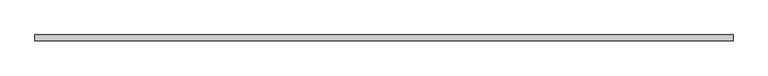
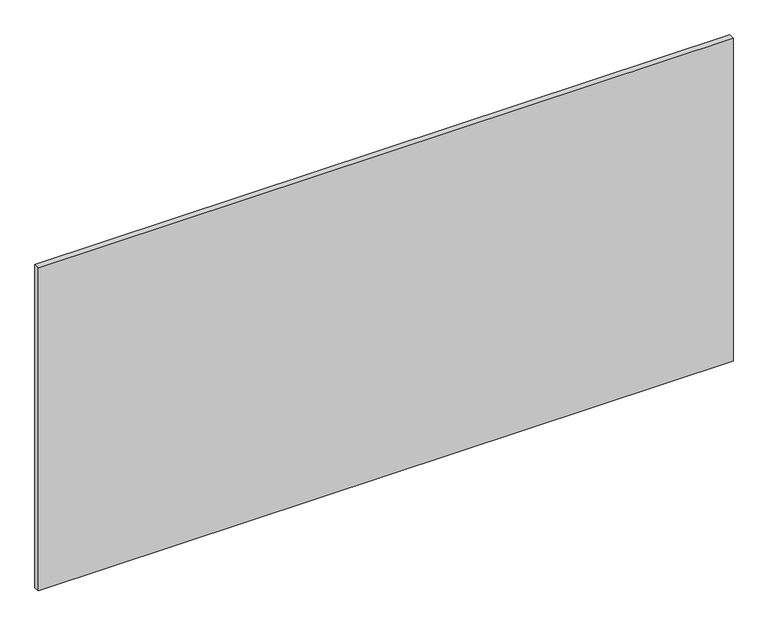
"""IFC4 building model written with IfcOpenShell, lengths in millimetres: plate geometry, Системная панель : С остеклением."""

from ifc_helpers import new_model, si_unit, origin, origin_with_axes, place, context, project, spatial, polyline, outline, extrude, source, transform, mapped, element, save


def plate_0a9b55ed(model_context):
    return source(origin(), model_context, "Body", "SweptSolid", [
        extrude(outline(polyline([(1475.0, -49.5), (-1475.0, -49.5), (-1475.0, -24.5), (1475.0, -24.5), (1475.0, -49.5)])), origin_with_axes(), (0.0, 0.0, 1.0), 1450.0),
    ])


if __name__ == "__main__":
    model = new_model("IFC4")
    model_context = context("Model", 3, world=origin())
    ifc_project = project(units=[si_unit("LENGTHUNIT", "METRE", prefix="MILLI")], contexts=[model_context])
    site = spatial("IfcSite", under=ifc_project)
    building = spatial("IfcBuilding", under=site)
    placement = place(None, origin())
    plate_shape = plate_0a9b55ed(model_context)
    element("IfcPlate", 1, ObjectType="Системная панель : С остеклением", at=placement, inside=building, context=model_context, shape_type="MappedRepresentation", body=[
        mapped(plate_shape, transform((0.0, 0.0, 0.0), x_axis=(1.0, 0.0, 0.0), y_axis=(0.0, 1.0, 0.0), z_axis=(0.0, 0.0, 1.0))),
    ])
    save(model, "model.ifc")
